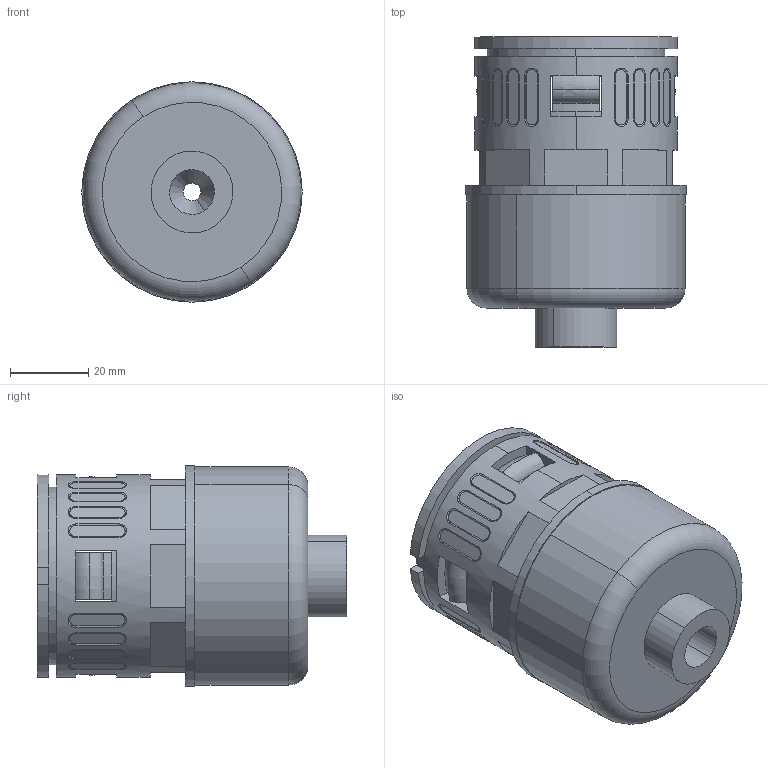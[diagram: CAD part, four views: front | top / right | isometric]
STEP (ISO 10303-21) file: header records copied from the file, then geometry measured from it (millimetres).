
FILE_DESCRIPTION (( 'STEP AP214' ), '1' );
FILE_NAME ('0000005188.STEP', '2017-04-05T05:19:22', ( 'HP' ), ( 'Hewlett-Packard Company' ), 'SwSTEP 2.0', 'SolidWorks 2014', '' );
FILE_SCHEMA (( 'AUTOMOTIVE_DESIGN' ));
Length unit declared in the file: millimetre
Products named in the file (4): 0000005182; 0000005187; 0000005181; 0000005188
Assembly tree (3 placements, depth 2):
  0000005188
    0000005181
    0000005187
    0000005182
Bounding box: 56.5 x 79.49 x 56.5 mm (x, y, z)
Volume: 68333.2 mm3; surface area: 40705.3 mm2
Topology: 3 solids, 3 shells, 238 faces, 635 edges, 420 vertices
Faces by surface type: plane 109, cylinder 71, bspline 32, torus 14, cone 12
Entity records: 11811 total; most frequent: CARTESIAN_POINT 5635, ORIENTED_EDGE 1270, DIRECTION 1225, EDGE_CURVE 635, AXIS2_PLACEMENT_3D 466, VERTEX_POINT 420, LINE 293, VECTOR 293
